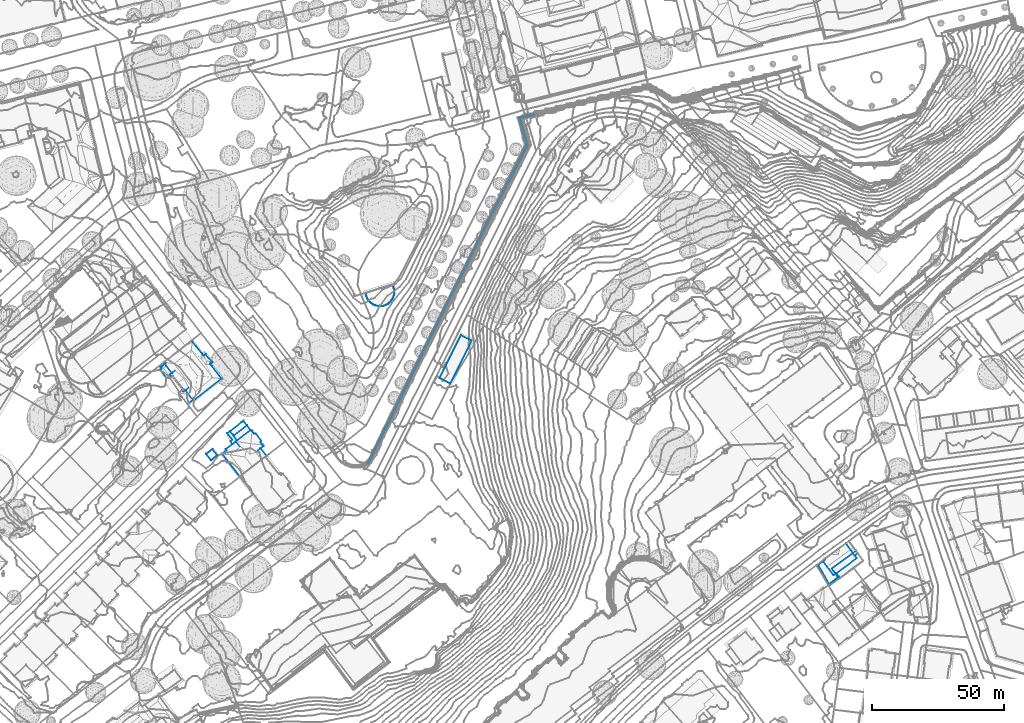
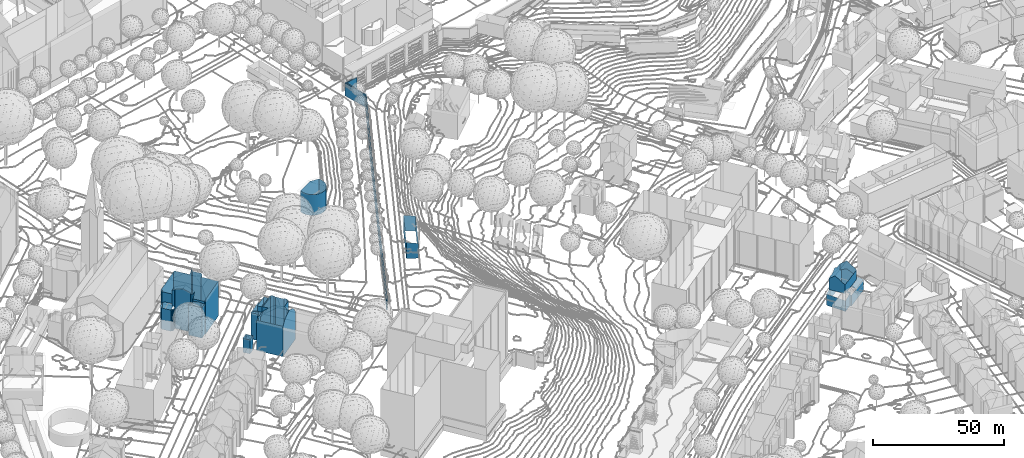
# Not in any storey, part 38 of 494: 7 walls.
"""IFC2X3 model written with IfcOpenShell, lengths in metres."""

import ifcopenshell
import ifcopenshell.guid

model = None  # the IFC model being written
_history = None  # IfcOwnerHistory: only IFC2X3 demands one
_inside = {}  # id of a spatial element -> (the spatial element, [elements in it])
_under = {}  # id of a project, library or spatial element -> (it, [spatial elements below it])
_declared = {}  # id of a project -> (the project, [libraries it declares])
_typed = {}  # id of a type object -> (the type object, [elements of that type])
_made_of = {}  # id of a material, layer set ... -> (it, [elements and type objects made of it])


def new_model(schema):
    """Start an empty IFC model of exactly this schema.

    Asked for "IFC4X3", IfcOpenShell would pick the latest addendum, in which some entities
    have other attributes; the version numbers below select the first issue.
    IFC2X3 requires an IfcOwnerHistory on every rooted entity: one is made here for all.
    """
    global model, _history
    if schema == "IFC4X3":
        model = ifcopenshell.file(schema_version=(4, 3, 0, 0))
    else:
        model = ifcopenshell.file(schema=schema)
    _inside.clear()
    _under.clear()
    _declared.clear()
    _typed.clear()
    _made_of.clear()
    _history = None
    if model.schema == "IFC2X3":
        org = make("IfcOrganization", Name="unknown")
        user = make(
            "IfcPersonAndOrganization",
            ThePerson=make("IfcPerson", FamilyName="unknown"),
            TheOrganization=org,
        )
        app = make(
            "IfcApplication",
            ApplicationDeveloper=org,
            Version="unknown",
            ApplicationFullName="unknown",
            ApplicationIdentifier="unknown",
        )
        _history = make(
            "IfcOwnerHistory",
            OwningUser=user,
            OwningApplication=app,
            ChangeAction="ADDED",
            CreationDate=0,
        )
    return model


def make(cls, **values):
    """One entity of the class cls with the attributes given. An attribute that is None is left unset."""
    return model.create_entity(
        cls, **{name: value for name, value in values.items() if value is not None}
    )


def rooted(cls, **values):
    """An entity with a GlobalId (a new one), such as an element, a storey or a relation."""
    return make(cls, GlobalId=ifcopenshell.guid.new(), OwnerHistory=_history, **values)


def si_unit(unit_type, name, prefix=None):
    """IfcSIUnit, for example si_unit("LENGTHUNIT", "METRE", prefix="MILLI")."""
    return make("IfcSIUnit", UnitType=unit_type, Prefix=prefix, Name=name)


def assignment(units):
    """IfcUnitAssignment: the units of a project."""
    return None if units is None else make("IfcUnitAssignment", Units=units)


def point(xyz):
    """IfcCartesianPoint."""
    return None if xyz is None else make("IfcCartesianPoint", Coordinates=xyz)


def direction(xyz):
    """IfcDirection."""
    return None if xyz is None else make("IfcDirection", DirectionRatios=xyz)


def frame(location, z_axis=None, x_axis=None):
    """IfcAxis2Placement3D, a coordinate frame: its origin and axes. An axis left out is left unset."""
    return make(
        "IfcAxis2Placement3D",
        Location=point(location),
        Axis=direction(z_axis),
        RefDirection=direction(x_axis),
    )


def origin_with_axes():
    """The frame at (0, 0, 0) with the z axis (0, 0, 1) and the x axis (1, 0, 0) written out."""
    return frame((0.0, 0.0, 0.0), z_axis=(0.0, 0.0, 1.0), x_axis=(1.0, 0.0, 0.0))


def place(relative_to, where):
    """IfcLocalPlacement: puts the frame where relative to a parent placement (None: the world)."""
    return make(
        "IfcLocalPlacement", PlacementRelTo=relative_to, RelativePlacement=where
    )


def context(
    kind, dimensions, precision=None, world=None, true_north=None, identifier=None
):
    """IfcGeometricRepresentationContext, for example the 3D "Model" context."""
    return make(
        "IfcGeometricRepresentationContext",
        ContextIdentifier=identifier,
        ContextType=kind,
        CoordinateSpaceDimension=dimensions,
        Precision=precision,
        WorldCoordinateSystem=world,
        TrueNorth=true_north,
    )


def subcontext(parent, identifier, kind, view, scale=None):
    """IfcGeometricRepresentationSubContext, for example "Body" below "Model"."""
    return make(
        "IfcGeometricRepresentationSubContext",
        ContextIdentifier=identifier,
        ContextType=kind,
        ParentContext=parent,
        TargetScale=scale,
        TargetView=view,
    )


def project(units=None, contexts=None):
    """IfcProject with its units and contexts."""
    return rooted(
        "IfcProject",
        Name="project",
        RepresentationContexts=contexts,
        UnitsInContext=assignment(units),
    )


def faces_of(points, faces, orient=None, outer=None):
    """IfcFace entities. A face is a list of loops; a loop is a list of indices into points, from 0.

    orient and outer hold one flag for each loop. By default every Orientation is true, the
    first loop of a face is its IfcFaceOuterBound and the others are IfcFaceBound.
    """
    made = []
    for i, loops in enumerate(faces):
        bounds = []
        for j, loop in enumerate(loops):
            is_outer = j == 0 if outer is None else outer[i][j]
            bounds.append(
                make(
                    "IfcFaceOuterBound" if is_outer else "IfcFaceBound",
                    Bound=make("IfcPolyLoop", Polygon=[points[k] for k in loop]),
                    Orientation=True if orient is None else orient[i][j],
                )
            )
        made.append(make("IfcFace", Bounds=bounds))
    return made


def faceted_brep(points, faces, orient=None, outer=None, voids=None):
    """IfcFacetedBrep: a solid bounded by flat faces; with voids (closed shells), ...WithVoids."""
    shared = [point(p) for p in points]
    hull = make("IfcClosedShell", CfsFaces=faces_of(shared, faces, orient, outer))
    if voids is None:
        return make("IfcFacetedBrep", Outer=hull)
    return make(
        "IfcFacetedBrepWithVoids",
        Outer=hull,
        Voids=[
            make(cls, CfsFaces=faces_of(shared, fs, o, b)) for cls, fs, o, b in voids
        ],
    )


def shape(context_of_items, identifier, shape_type, items):
    """IfcShapeRepresentation: the items that make up one representation, for example the "Body"."""
    return make(
        "IfcShapeRepresentation",
        ContextOfItems=context_of_items,
        RepresentationIdentifier=identifier,
        RepresentationType=shape_type,
        Items=items,
    )


def made_of(thing, what):
    """Note that an element or type object is made of a material, layer set ...; save() writes the relation."""
    if what is not None:
        _made_of.setdefault(what.id(), (what, []))[1].append(thing)
    return thing


def element(
    cls,
    number,
    at=None,
    inside=None,
    cuts=None,
    type_object=None,
    material=None,
    context=None,
    identifier="Body",
    shape_type=None,
    held_by="IfcProductDefinitionShape",
    body=None,
    shapes=None,
    **own,
):
    """One element of the class cls, such as IfcWall. Its Tag is "e" and its number.

    at: its placement. inside: the storey or other place that contains it. cuts: it is an
    opening in that element (IfcRelVoidsElement). A single representation is given by context,
    identifier, shape_type and body (its items); several are given by shapes. held_by: the class
    of the entity that holds the representations. save() writes the other relations.
    """
    e = rooted(cls, Tag="e%d" % number, ObjectPlacement=at, **own)
    if body is not None:
        shapes = [shape(context, identifier, shape_type, body)]
    if shapes is not None:
        e.Representation = make(held_by, Representations=shapes)
    if inside is not None:
        _inside.setdefault(inside.id(), (inside, []))[1].append(e)
    if cuts is not None:
        rooted(
            "IfcRelVoidsElement", RelatingBuildingElement=cuts, RelatedOpeningElement=e
        )
    if type_object is not None:
        _typed.setdefault(type_object.id(), (type_object, []))[1].append(e)
    return made_of(e, material)


def aggregate(whole, parts):
    """IfcRelAggregates: a whole, such as a stair, and the parts it consists of."""
    return rooted("IfcRelAggregates", RelatingObject=whole, RelatedObjects=parts)


def save(model, path):
    """Write the relations noted so far, then the file.

    IfcRelAggregates (storeys below a building ...), IfcRelContainedInSpatialStructure (elements
    in a storey), IfcRelDefinesByType, IfcRelAssociatesMaterial and IfcRelDeclares: one each for
    every whole, place, type object, material and project.
    """
    for whole, parts in _under.values():
        aggregate(whole, parts)
    for where, things in _inside.values():
        rooted(
            "IfcRelContainedInSpatialStructure",
            RelatedElements=things,
            RelatingStructure=where,
        )
    for kind, things in _typed.values():
        rooted("IfcRelDefinesByType", RelatedObjects=things, RelatingType=kind)
    for what, things in _made_of.values():
        rooted("IfcRelAssociatesMaterial", RelatedObjects=things, RelatingMaterial=what)
    for by, libraries in _declared.values():
        rooted("IfcRelDeclares", RelatingContext=by, RelatedDefinitions=libraries)
    model.write(path)


model = new_model("IFC2X3")

# Units and contexts
model_context = context("Model", 3, precision=1e-05, world=origin_with_axes())
body_context = subcontext(model_context, "Body", "Model", "MODEL_VIEW")
ifc_project = project(units=[si_unit("AREAUNIT", "SQUARE_METRE"), si_unit("LENGTHUNIT", "METRE")], contexts=[model_context])

# Walls
wall_1_placement = place(None, frame((211.8297320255, 101.9383160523, 526.7541), z_axis=(0.0, 0.0, 1.0), x_axis=(1.0, 0.0, 0.0)))
element("IfcWall", 1, at=wall_1_placement, Name="Wall 15", context=body_context, shape_type="Brep", body=[
    faceted_brep([(101.5769999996, 200.1640000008, 12.725), (98.7160000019, 210.6893999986, 6.9356), (101.5769999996, 200.1640000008, 6.9355), (99.1889999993, 194.3115000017, 12.725), (87.0150000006, 170.5927000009, 12.725), (99.1889999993, 194.3115000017, 6.9355), (102.1030000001, 200.1112999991, 12.725), (102.1030000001, 200.1112999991, 6.9355), (98.7479999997, 194.5351000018, 12.725), (98.7479999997, 194.5351000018, 6.9355), (86.574000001, 170.8154000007, 12.725), (86.574000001, 170.8154000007, 6.9355), (99.3280000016, 210.3222000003, 12.908), (99.3280000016, 210.3222000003, 6.9356), (104.5170000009, 211.5126999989, 12.908), (104.5170000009, 211.5126999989, 6.9356), (98.7160000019, 210.6893999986, 12.908), (104.3980000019, 211.9921999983, 12.908), (69.7410000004, 135.8436999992, 12.358), (60.0820000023, 116.4853000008, 12.266), (60.0820000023, 116.4853000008, 6.9355), (79.3300000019, 155.1757000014, 12.45), (74.5290000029, 145.4970000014, 11.0251), (74.5290000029, 145.4970000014, 8.2684), (79.3300000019, 155.1757999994, 6.9355), (69.7410000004, 135.8436999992, 6.9355), (64.4620000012, 126.371100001, 8.1764), (64.4620000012, 126.371100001, 10.9331), (69.2980000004, 136.0634000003, 6.9355), (69.2980000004, 136.0634000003, 12.358), (78.887000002, 155.3955000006, 12.45), (59.6380000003, 116.7041000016, 12.266), (59.6380000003, 116.7041000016, 6.9355), (87.0150000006, 170.5927000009, 6.9355), (78.887000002, 155.3955000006, 6.9355), (41.1750000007, 79.504900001, 11.991), (50.068, 97.128899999, 11.991), (41.1750000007, 79.504900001, 6.9354), (41.626000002, 79.3007999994, 11.991), (41.626000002, 79.3007999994, 6.9354), (50.5109999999, 96.9081999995, 11.991), (50.5109999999, 96.9081999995, 6.9355), (50.068, 97.128899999, 6.9355), (104.3980000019, 211.9921999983, 6.9356)], [[[0, 1, 2]], [[3, 4, 5]], [[6, 3, 7]], [[8, 0, 9]], [[10, 8, 11]], [[12, 6, 13]], [[14, 12, 15]], [[16, 17, 1]], [[18, 19, 20]], [[21, 18, 22]], [[21, 22, 23]], [[23, 24, 21]], [[24, 23, 25]], [[18, 25, 23]], [[25, 18, 20]], [[26, 27, 28]], [[28, 29, 30]], [[29, 27, 31]], [[31, 27, 26]], [[26, 32, 31]], [[32, 26, 28]], [[4, 21, 33]], [[30, 11, 34]], [[35, 36, 37]], [[38, 35, 39]], [[40, 38, 41]], [[19, 40, 20]], [[36, 32, 42]], [[43, 17, 15]], [[16, 1, 0]], [[4, 33, 5]], [[3, 5, 7]], [[0, 2, 9]], [[8, 9, 11]], [[6, 7, 13]], [[12, 13, 15]], [[17, 43, 1]], [[22, 18, 23]], [[27, 29, 28]], [[28, 30, 34]], [[21, 24, 33]], [[10, 11, 30]], [[36, 42, 37]], [[35, 37, 39]], [[38, 39, 41]], [[40, 41, 20]], [[31, 32, 36]], [[17, 14, 15]]]),
])
wall_2_placement = place(None, frame((191.7677320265, 184.7195160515, 533.4186), z_axis=(0.0, 0.0, 1.0), x_axis=(1.0, 0.0, 0.0)))
element("IfcWall", 2, at=wall_2_placement, Name="Wall 0", context=body_context, shape_type="Brep", body=[
    faceted_brep([(2.3889999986, 1.7871000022, 6.5494), (4.1750000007, -0.4784999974, 6.5384), (3.3530000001, 0.5645000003, 0.0), (4.1380000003, -0.5077999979, 6.5584), (1.8900000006, -2.2802000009, 6.5484), (4.1750000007, -0.4784999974, 0.0), (1.8319999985, -2.3260999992, 0.0), (0.9030000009, 0.6983000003, 0.0), (0.0, 0.0, 0.0), (0.0410000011, 0.0322999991, 6.5284), (0.0, 0.0001000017, 6.5054), (1.8319999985, -2.3260999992, 6.5164), (2.3599999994, 1.8243000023, 0.0), (2.3599999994, 1.8242000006, 6.5294), (1.6889999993, 1.3047000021, 6.5284)], [[[0, 1, 2]], [[1, 3, 4]], [[5, 1, 4]], [[6, 5, 4]], [[7, 8, 9]], [[9, 8, 10]], [[6, 11, 10]], [[10, 8, 6]], [[0, 2, 12]], [[1, 5, 2]], [[0, 12, 13]], [[7, 14, 12]], [[14, 7, 9]], [[13, 12, 14]], [[4, 11, 6]]]),
])
wall_3_placement = place(None, frame((197.8567320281, 184.744916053, 532.0838), z_axis=(0.0, 0.0, 1.0), x_axis=(1.0, 0.0, 0.0)))
element("IfcWall", 3, at=wall_3_placement, Name="Wall 0", context=body_context, shape_type="Brep", body=[
    faceted_brep([(3.8349999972, 5.3770000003, 0.0), (3.1030000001, 4.8066999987, 0.0), (3.8349999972, 5.3770000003, 12.2958), (3.9210000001, 3.7509999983, 12.0508), (3.9210000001, 3.7509999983, 0.0), (3.1030000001, 4.8066999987, 12.0508), (6.7390000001, 2.6748000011, 15.8304), (5.1609999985, 4.7109999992, 15.8304), (5.1609999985, 4.7109999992, 13.4287), (1.6789999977, 1.308600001, 14.0176), (1.3369999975, 1.7480999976, 0.0), (1.6789999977, 1.308600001, 0.0), (0.0, 0.0, 14.0236), (0.4199999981, 0.3271999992, 14.0216), (0.0, 0.0, 10.5179), (0.0, 0.0, 3.5056), (15.4179999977, 3.3418000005, 16.4074), (15.3550000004, 3.2919999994, 16.4054), (15.4179999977, 3.3418000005, 4.1016), (15.3550000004, 3.2919999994, -0.0001), (15.4179999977, 3.3418000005, -0.0001), (15.6419999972, 2.9239000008, 15.8304), (15.6419999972, 2.9237999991, -0.0001), (14.6119999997, 2.1259999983, 12.6237), (16.7899999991, -0.6845000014, 12.6237), (14.6119999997, 2.1259999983, -0.0001), (11.1039999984, 8.6220999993, 8.2312), (11.231999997, 8.7216999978, 16.4614), (11.1039999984, 8.6220999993, 4.1156), (11.231999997, 8.7216999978, 0.0), (11.1039999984, 8.6220999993, 0.0), (14.5339999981, 4.4776000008, 4.1286), (14.8389999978, 5.0214999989, 15.8304), (14.5339999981, 4.4776000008, 16.5134), (14.5339999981, 4.4776000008, -0.0001), (14.8389999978, 5.0214999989, -0.0001), (12.7159999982, 7.7626999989, 15.8304), (12.7159999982, 7.7626999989, 0.0), (12.1039999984, 7.6006000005, 0.0), (4.2889999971, 6.9043000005, 15.1485), (9.3729999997, 10.8456999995, 15.1485), (4.2889999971, 6.9043000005, 12.6367), (9.3729999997, 10.8456999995, 12.1278), (4.2889999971, 6.9043000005, 12.1278), (5.6769999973, 5.1142999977, 15.1485), (5.6769999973, 5.1142999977, 12.6367), (1.936999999, 7.816399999, 0.0), (1.936999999, 7.816399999, 12.1418), (2.7669999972, 6.75, 12.2948), (2.9629999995, 8.6162, 12.1738), (2.9629999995, 8.6162, 12.0948), (2.9629999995, 8.6162, 0.0), (7.4239999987, 12.0878999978, 12.1278), (8.0359999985, 12.5634999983, 12.1278), (7.4239999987, 12.0878999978, 0.0), (8.0359999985, 12.5634999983, 0.0), (4.0439999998, 7.2216999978, 12.1278), (4.0439999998, 7.2216999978, 12.6368), (14.6119999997, 2.1259999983, 15.8304), (12.6519999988, 0.6064999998, 15.8304), (15.3669999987, 3.4081999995, 16.5094), (11.2669999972, 8.6767999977, 16.5264), (12.1039999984, 7.6006000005, 16.5234), (9.3729999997, 10.8456999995, 0.0), (10.7659999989, 9.0566999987, 0.0), (10.7659999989, 9.0557000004, 15.8304), (11.1039999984, 8.6220999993, 16.4624), (10.7659999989, 9.0566999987, 15.1485), (11.1039999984, 8.6220999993, 12.3468), (0.6609999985, -0.8506000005, 14.1086), (0.0460000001, -0.0595000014, 14.1016), (6.6479999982, -8.5430000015, -0.0001), (6.6479999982, -8.5428999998, 14.1446), (6.3269999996, -8.1308000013, 14.1306), (5.875, -7.5498000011, 14.1256), (6.3489999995, -8.1592000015, -0.0001), (0.6609999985, -0.8506000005, 0.0), (0.0, 0.0, 0.0), (1.3369999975, 1.7480999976, 13.4287), (3.9210000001, 3.7509999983, 13.4287), (5.6769999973, 5.1142999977, 15.8304), (8.2919999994, -7.2695000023, 16.2364), (14.8299999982, -2.2030999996, 15.8304), (11.4399999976, -4.8300999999, 17.6982), (11.4399999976, -4.8300999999, -0.0001), (8.2919999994, -7.2695000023, -0.0001), (14.8299999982, -2.2030999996, -0.0001), (16.7899999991, -0.6845000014, -0.0001)], [[[0, 1, 2]], [[3, 1, 4]], [[1, 3, 5]], [[6, 7, 8]], [[9, 10, 11]], [[12, 13, 14]], [[14, 13, 15]], [[9, 11, 13]], [[16, 17, 18]], [[17, 19, 20]], [[17, 21, 19]], [[22, 19, 21]], [[23, 24, 25]], [[26, 27, 28]], [[27, 29, 30]], [[31, 32, 33]], [[31, 34, 32]], [[32, 34, 35]], [[36, 32, 37]], [[37, 32, 35]], [[37, 38, 36]], [[39, 40, 41]], [[41, 42, 43]], [[44, 41, 45]], [[46, 0, 2]], [[46, 2, 47]], [[2, 48, 47]], [[47, 49, 50]], [[46, 50, 51]], [[50, 46, 47]], [[52, 53, 54]], [[51, 50, 54]], [[55, 54, 53]], [[54, 50, 52]], [[56, 50, 57]], [[57, 50, 49]], [[41, 43, 56]], [[41, 56, 57]], [[21, 23, 22]], [[58, 59, 23]], [[22, 23, 25]], [[33, 60, 16]], [[18, 31, 33]], [[31, 18, 20]], [[18, 33, 16]], [[20, 34, 31]], [[29, 27, 38]], [[27, 61, 62]], [[38, 27, 62]], [[28, 55, 26]], [[26, 55, 53]], [[55, 28, 63]], [[28, 64, 63]], [[64, 28, 30]], [[65, 66, 67]], [[26, 42, 68]], [[42, 26, 53]], [[68, 67, 66]], [[67, 68, 42]], [[42, 40, 67]], [[69, 70, 12]], [[69, 12, 14]], [[71, 72, 73]], [[73, 74, 71]], [[69, 71, 74]], [[69, 14, 71]], [[75, 14, 15]], [[76, 15, 77]], [[14, 75, 71]], [[15, 76, 75]], [[78, 79, 3]], [[3, 79, 8]], [[78, 3, 10]], [[4, 10, 3]], [[7, 80, 44]], [[67, 44, 65]], [[7, 44, 8]], [[3, 8, 45]], [[81, 72, 82]], [[83, 81, 82]], [[82, 72, 24]], [[72, 84, 24]], [[71, 85, 72]], [[86, 87, 24]], [[86, 24, 84]], [[84, 72, 85]], [[2, 1, 5]], [[78, 10, 9]], [[77, 13, 11]], [[13, 77, 15]], [[17, 20, 18]], [[24, 87, 25]], [[66, 27, 68]], [[26, 68, 27]], [[27, 30, 28]], [[36, 38, 62]], [[40, 42, 41]], [[39, 41, 44]], [[58, 23, 21]], [[44, 80, 65]], [[44, 45, 8]]]),
])
wall_4_placement = place(None, frame((424.3367320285, 142.6277160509, 499.4686), z_axis=(0.0, 0.0, 1.0), x_axis=(1.0, 0.0, 0.0)))
element("IfcWall", 4, at=wall_4_placement, Name="Wall 0", context=body_context, shape_type="Brep", body=[
    faceted_brep([(15.050999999, 4.3672000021, 7.6103), (13.8949999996, 3.5215000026, 5.7004), (15.050999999, 4.3672000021, 5.7004), (1.8809999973, 1.3858000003, 0.9629), (2.6589999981, 1.9590000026, 10.913), (2.6589999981, 1.9590000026, 0.006), (1.8729999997, 1.379900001, 0.006), (1.8729999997, 1.379900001, 10.915), (1.8729999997, 1.379900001, 5.7335), (14.675999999, 2.452200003, 9.824), (6.9169999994, -3.2236000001, 6.0304), (14.675999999, 2.452200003, 5.4765), (5.8249999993, -4.0233999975, 9.824), (6.9169999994, -3.2236000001, 5.4765), (5.8249999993, -4.0233999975, 5.7334), (3.3819999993, -0.682599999, 12.8868), (2.4809999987, 2.2012000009, 10.68), (2.4809999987, 2.2012000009, 5.9474), (2.4809999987, 2.2012000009, 0.006), (10.5249999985, 8.1280000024, 7.7623), (10.5249999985, 8.1280000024, 10.632), (12.2349999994, 5.7920000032, 9.1091), (12.2349999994, 5.7920000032, 12.8868), (13.8949999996, 3.5215000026, 7.6103), (7.5859999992, -4.740199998, 0.0), (7.9599999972, -5.2518999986, 5.0955), (7.5849999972, -4.740199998, 5.2025), (7.9599999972, -5.2518999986, -0.042), (6.629999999, -3.4335999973, 0.006), (5.186999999, -1.4618999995, 0.0), (5.186999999, -1.4618999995, -0.042), (17.1279999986, 1.5527999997, -0.042), (17.1279999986, 1.5527999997, 5.1095), (12.754999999, -1.6932999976, -0.042), (12.5439999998, -1.8495999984, 5.1025), (1.7299999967, -3.0946999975, 0.0), (3.4469999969, -6.1659999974, 5.0345), (2.0269999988, -3.6268999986, 5.1115), (3.4469999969, -6.1659999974, 0.0), (0.0, 0.0, 5.2225), (0.0, 0.0, 1.0449), (0.0, 0.0, 0.0), (4.1419999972, -7.3172999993, 5.0085), (4.1419999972, -7.3172999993, 0.0), (7.868999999, -4.5262999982, 6.0304), (7.5029999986, -4.8016999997, 5.9294), (7.868999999, -4.5262999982, 5.2045), (11.8349999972, 8.7226999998, 7.8742), (13.379999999, 6.630900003, 9.1091), (11.6579999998, 8.9629000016, 0.064), (11.6579999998, 8.9629000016, 7.7353), (15.0569999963, 4.3594000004, 3.8286), (13.379999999, 6.630900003, 0.064), (14.3859999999, 5.2675999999, 0.064), (12.2349999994, 5.7920000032, 0.006), (10.5249999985, 8.1280000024, 0.006), (13.2349999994, 4.4258000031, 0.064), (10.5249999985, 8.1280000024, 0.064), (13.2339999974, 4.4248000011, 0.006), (4.9789999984, 4.0420000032, 10.672), (6.5159999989, 5.1739000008, 0.006), (8.3029999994, 6.4912, 10.662), (4.9789999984, 4.0420000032, 0.006), (6.5159999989, 5.1739000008, 11.9689), (9.0339999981, 7.0303000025, 10.659), (8.3029999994, 6.4912, 0.006), (9.0339999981, 7.0303000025, 0.006), (14.3859999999, 5.2675999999, -0.042), (5.4739999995, -1.2518999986, 0.0), (0.4679999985, 0.3448000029, 1.0499), (1.4049999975, 1.0351999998, 1.3059), (0.4679999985, 0.3448000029, 0.002), (0.935999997, 0.6905000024, 0.003), (1.4049999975, 1.0351999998, 0.005)], [[[0, 1, 2]], [[3, 4, 5]], [[6, 3, 5]], [[7, 4, 8]], [[9, 10, 11]], [[10, 9, 12]], [[11, 10, 13]], [[14, 10, 12]], [[12, 15, 14]], [[14, 7, 8]], [[7, 14, 15]], [[16, 17, 4]], [[4, 17, 5]], [[18, 5, 17]], [[19, 20, 21]], [[20, 22, 21]], [[9, 23, 21]], [[11, 23, 9]], [[23, 11, 1]], [[9, 21, 22]], [[24, 25, 26]], [[27, 25, 24]], [[28, 29, 30]], [[30, 27, 28]], [[28, 27, 24]], [[31, 32, 33]], [[32, 34, 33]], [[34, 25, 33]], [[33, 25, 27]], [[35, 36, 37]], [[38, 36, 35]], [[39, 40, 37]], [[35, 37, 40]], [[41, 35, 40]], [[42, 36, 43]], [[36, 38, 43]], [[44, 45, 46]], [[26, 46, 45]], [[45, 42, 26]], [[42, 43, 24]], [[24, 26, 42]], [[47, 48, 2]], [[0, 2, 48]], [[2, 49, 47]], [[49, 50, 47]], [[49, 51, 52]], [[51, 53, 52]], [[51, 49, 2]], [[54, 55, 56]], [[56, 55, 57]], [[56, 58, 54]], [[17, 16, 59]], [[60, 17, 19]], [[59, 61, 17]], [[62, 18, 17]], [[17, 60, 62]], [[59, 63, 61]], [[61, 64, 19]], [[19, 50, 57]], [[20, 19, 64]], [[19, 65, 60]], [[65, 19, 66]], [[49, 57, 50]], [[57, 55, 66]], [[19, 57, 66]], [[19, 17, 61]], [[32, 51, 2]], [[31, 53, 51]], [[67, 53, 31]], [[29, 68, 30]], [[30, 68, 58]], [[56, 53, 58]], [[58, 67, 30]], [[67, 58, 53]], [[40, 39, 8]], [[69, 8, 70]], [[40, 71, 41]], [[69, 72, 71]], [[69, 70, 72]], [[72, 70, 73]], [[3, 73, 70]], [[6, 73, 3]], [[8, 3, 70]], [[10, 44, 13]], [[23, 1, 0]], [[8, 4, 3]], [[32, 31, 51]], [[40, 8, 69]], [[69, 71, 40]], [[44, 46, 13]]]),
])
wall_5_placement = place(None, frame((280.3717320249, 213.5818160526, 528.5311), z_axis=(0.0, 0.0, 1.0), x_axis=(1.0, 0.0, 0.0)))
element("IfcWall", 5, at=wall_5_placement, Name="Wall 0", context=body_context, shape_type="Brep", body=[
    faceted_brep([(8.1610000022, 16.254900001, 0.0), (8.1610000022, 16.254900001, 7.4403), (12.2990000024, 14.1807000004, 6.8683), (12.2990000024, 14.1807000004, 0.0), (0.0, 0.0, 0.0), (4.1460000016, -2.0859000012, 6.8803), (4.1460000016, -2.0859000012, -0.0001), (0.0, 0.0, 7.4532)], [[[0, 1, 2]], [[2, 3, 0]], [[4, 1, 0]], [[5, 4, 6]], [[3, 2, 5]], [[6, 3, 5]], [[4, 7, 1]], [[7, 4, 5]]]),
])
wall_6_placement = place(None, frame((252.4497320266, 245.9139160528, 540.482), z_axis=(0.0, 0.0, 1.0), x_axis=(1.0, 0.0, 0.0)))
element("IfcWall", 6, at=wall_6_placement, Name="Wall 0", context=body_context, shape_type="Brep", body=[
    faceted_brep([(0.0, 0.0, 9.856), (5.0029999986, 1.620099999, 11.3829), (4.9250000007, 1.5947000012, 0.0), (0.0, 0.0, 0.0), (0.0529999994, -0.5029999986, 9.831), (0.0529999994, -0.5029999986, 0.0), (0.1350000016, -0.9072999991, 9.821), (0.1530000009, -0.9970999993, 0.0), (1.0, -2.8262000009, 9.739), (1.0, -2.8262000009, 0.0), (1.2250000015, -3.1132999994, 9.751), (0.1539999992, -0.9981000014, 9.811), (0.3000000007, -1.4844000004, 0.0), (0.3000000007, -1.4844000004, 9.772), (0.4910000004, -1.9521999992, 9.747), (0.4910000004, -1.9521999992, 0.0), (0.7250000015, -2.4013999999, 0.0), (0.7250000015, -2.4013999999, 9.736), (10.1680000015, 2.808600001, 9.846), (10.2850000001, 2.558600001, 0.0), (10.1680000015, 2.808600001, 0.0), (9.932, 3.2168000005, 0.0), (10.1710000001, -2.1768000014, 0.0), (10.1719999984, -2.1748000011, 9.696), (10.1140000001, -2.2754000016, 9.702), (9.936999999, -2.5830000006, 9.674), (10.370000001, -1.7481000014, 9.683), (10.370000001, -1.7481000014, 0.0), (10.5309999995, -1.3047000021, 9.683), (10.5309999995, -1.3047000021, 0.0), (10.6519999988, -0.8506000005, 9.694), (10.6519999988, -0.8506000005, 0.0), (10.7340000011, -0.3867999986, 9.718), (10.7340000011, -0.3867000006, 0.0), (10.7740000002, 0.0819999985, 0.0), (10.6499999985, 1.4853000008, 9.759), (10.7320000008, 1.0214999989, 0.0), (10.6499999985, 1.4853000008, 0.0), (10.5280000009, 1.9393999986, 0.0), (10.5280000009, 1.9393999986, 9.78), (10.3669999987, 2.3827999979, 9.814), (10.3669999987, 2.3827999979, 0.0), (10.2800000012, 2.5683000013, 9.834), (10.7740000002, 0.1766999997, 9.763), (10.7740000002, 0.552699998, 0.0), (10.7320000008, 1.0214999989, 9.749), (10.7740000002, 0.552699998, 9.751), (5.5760000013, -5.0791000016, 0.0), (6.057, -5.0410000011, 0.0), (6.057, -5.0410000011, 9.648), (5.8539999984, -5.057599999, 9.663), (6.5329999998, -4.9600000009, 0.0), (6.5329999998, -4.9600000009, 9.625), (7.0, -4.8368999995, 0.0), (7.0, -4.8368999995, 9.614), (7.4539999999, -4.6728999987, 0.0), (7.4539999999, -4.6728999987, 9.617), (7.879999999, -4.4737000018, 0.0), (7.879999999, -4.4737000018, 9.632), (8.2910000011, -4.2353999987, 0.0), (8.6730000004, -3.9668000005, 9.645), (8.3469999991, -4.1963, 9.665), (8.6730000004, -3.9668000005, 0.0), (9.0329999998, -3.6631000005, 9.635), (9.0329999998, -3.6631000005, 0.0), (9.3649999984, -3.3300999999, 0.0), (9.6680000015, -2.9688000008, 0.0), (9.6680000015, -2.9688000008, 9.649), (9.3649999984, -3.3300999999, 9.636), (9.936999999, -2.5830000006, 0.0), (1.6290000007, -3.557599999, 9.704), (1.2980000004, -3.2061000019, 0.0), (1.6290000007, -3.557599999, 0.0), (1.9899999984, -3.8770000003, 0.0), (1.9899999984, -3.8770000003, 9.682), (2.3790000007, -4.1640999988, 9.672), (2.3790000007, -4.1640999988, 0.0), (2.7910000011, -4.4151000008, 0.0), (3.2219999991, -4.6279999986, 0.0), (3.2690000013, -4.6464999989, 9.693), (3.2239999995, -4.628899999, 9.69), (4.1389999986, -4.9356000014, 0.0), (4.1389999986, -4.9356000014, 9.639), (3.6750000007, -4.8018000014, 0.0), (4.6130000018, -5.0263999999, 0.0), (4.6130000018, -5.0263999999, 9.628), (5.0929999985, -5.0742999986, 0.0), (5.5760000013, -5.0791000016, 9.647), (3.4409999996, -4.7118999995, 9.68), (3.6750000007, -4.8018000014, 9.662), (9.932, 3.2168000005, 9.879), (10.7740000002, 0.0819999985, 9.754), (8.2879999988, -4.2373000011, 9.659), (1.2980000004, -3.2061000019, 9.739), (2.7910000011, -4.4151000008, 9.675), (5.0929999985, -5.0742999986, 9.631)], [[[0, 1, 2]], [[2, 3, 0]], [[4, 0, 5]], [[5, 0, 3]], [[6, 5, 7]], [[8, 9, 10]], [[6, 7, 11]], [[12, 11, 7]], [[12, 13, 11]], [[14, 13, 12]], [[14, 12, 15]], [[16, 17, 15]], [[15, 17, 14]], [[8, 16, 9]], [[17, 16, 8]], [[18, 19, 20]], [[2, 1, 21]], [[22, 23, 24]], [[25, 22, 24]], [[26, 22, 27]], [[28, 27, 29]], [[30, 28, 31]], [[28, 29, 31]], [[32, 31, 33]], [[32, 30, 31]], [[34, 32, 33]], [[35, 36, 37]], [[38, 39, 37]], [[35, 37, 39]], [[40, 39, 41]], [[39, 38, 41]], [[42, 40, 19]], [[19, 18, 42]], [[40, 41, 19]], [[43, 34, 44]], [[36, 45, 46]], [[47, 48, 49]], [[49, 50, 47]], [[51, 52, 48]], [[49, 48, 52]], [[53, 54, 51]], [[55, 56, 53]], [[54, 53, 56]], [[57, 58, 56]], [[59, 58, 57]], [[59, 60, 61]], [[62, 60, 59]], [[63, 62, 64]], [[64, 65, 63]], [[66, 67, 68]], [[66, 68, 65]], [[67, 66, 25]], [[25, 66, 69]], [[70, 71, 72]], [[73, 74, 72]], [[72, 74, 70]], [[75, 74, 76]], [[76, 74, 73]], [[75, 76, 77]], [[78, 79, 80]], [[71, 10, 9]], [[81, 82, 83]], [[84, 85, 82]], [[85, 84, 86]], [[47, 87, 86]], [[88, 78, 89]], [[88, 79, 78]], [[4, 5, 6]], [[18, 20, 21]], [[90, 18, 21]], [[90, 21, 1]], [[91, 34, 43]], [[23, 22, 26]], [[28, 26, 27]], [[34, 91, 32]], [[45, 36, 35]], [[46, 43, 44]], [[46, 44, 36]], [[51, 54, 52]], [[56, 55, 57]], [[59, 92, 58]], [[92, 59, 61]], [[60, 62, 63]], [[65, 68, 63]], [[25, 69, 22]], [[93, 71, 70]], [[77, 94, 75]], [[94, 78, 80]], [[94, 77, 78]], [[71, 93, 10]], [[89, 83, 82]], [[82, 81, 84]], [[85, 86, 95]], [[95, 86, 87]], [[50, 87, 47]], [[83, 89, 78]]]),
])
wall_7_placement = place(None, frame((174.360732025, 216.5486160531, 540.845), z_axis=(0.0, 0.0, 1.0), x_axis=(1.0, 0.0, 0.0)))
element("IfcWall", 7, at=wall_7_placement, Name="Wall 0", context=body_context, shape_type="Brep", body=[
    faceted_brep([(8.2800000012, -10.2607000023, 4.3085), (8.2160000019, -10.1787, -9.8481), (10.3590000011, -12.9081999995, 4.3085), (6.9850000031, -8.6123000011, 4.3085), (6.9850000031, -8.6123000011, -6.3094), (6.9850000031, -8.6123000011, -0.9999), (6.9850000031, -8.6123000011, -9.8481), (4.7440000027, -2.1533000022, -9.8481), (4.7440000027, -2.1533000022, 0.3849), (4.2750000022, -2.5205000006, 8.3442), (4.2750000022, -2.5205000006, 3.7956), (4.2750000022, -2.5205000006, 0.3429), (1.6060000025, 3.2382999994, -9.8481), (1.6060000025, 3.2382999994, 5.9524), (11.881000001, 11.2665999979, 6.0054), (11.881000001, 11.2665999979, -5.7675), (11.881000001, 11.2665999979, 2.0418), (5.9730000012, 6.6503999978, -9.8481), (11.881000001, 11.2665999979, -9.8481), (1.7290000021, 3.0810999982, 6.2454), (1.7290000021, 3.0810999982, -9.8481), (8.7660000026, -8.2343000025, 7.9792), (8.2710000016, -7.6024999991, 4.2766), (8.7660000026, -8.2343000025, 4.2766), (10.6860000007, -6.7246000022, 7.9792), (9.5260000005, -7.6367000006, 7.9792), (9.5260000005, -7.6367000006, 5.5344), (9.5260000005, -7.6367000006, 4.2766), (8.7310000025, -7.2421000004, -9.8481), (8.7310000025, -7.2421000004, 8.2632), (6.7300000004, -4.6875, -9.8481), (6.7300000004, -4.6875, 9.4151), (4.7440000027, -2.1533000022, 8.3442), (7.1400000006, -8.4902000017, 4.2766), (8.2700000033, -7.6024999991, 8.2642), (1.6500000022, 3.0196000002, 6.1844), (1.6790000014, 3.0419999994, 6.2454), (1.6500000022, 3.0196000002, -9.8481), (1.9830000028, 2.5927999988, -9.8481), (1.9830000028, 2.5927999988, 6.1804), (1.6760000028, 2.3535999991, 0.3659), (1.6760000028, 2.3535999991, 5.5335), (1.6740000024, 2.3506000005, -9.8481), (12.8380000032, -11.371100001, -9.8481), (12.8380000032, -11.371100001, 6.0244), (12.6359999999, -11.1141999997, -9.8481), (12.6359999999, -11.1141999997, 6.0244), (12.4040000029, -11.2968000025, 4.3405), (10.5200000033, -12.7811999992, 4.3405), (12.4040000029, -11.2968000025, 5.5344), (10.3590000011, -12.9081999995, -2.7698), (12.4040000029, -11.2968000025, -9.8481), (10.3590000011, -12.9081999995, -9.8481), (17.1560000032, 6.1318999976, 7.3453), (19.4770000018, 3.1708999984, 7.3593), (19.5980000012, 3.0165999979, 6.6673), (19.5980000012, 3.0165999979, -9.8481), (19.4770000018, 3.1708999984, -9.8481), (17.1560000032, 6.1318999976, -9.8481), (19.2280000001, 2.7256000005, 6.3644), (18.8450000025, 2.4239000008, 6.3644), (18.8450000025, 2.4239000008, -9.8481), (19.2280000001, 2.7256000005, -9.8481), (16.7370000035, 5.8017999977, 9.1601), (16.3890000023, 5.5293000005, 8.8751), (16.7370000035, 5.8017999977, -9.8481), (16.3890000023, 5.5293000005, -9.8481), (13.006000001, -11.2382000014, -9.8481), (23.2480000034, -3.1678999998, -9.8481), (23.2480000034, -3.1678999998, 6.3323), (23.2100000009, -3.1982000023, 6.4063), (13.006000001, -11.2382000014, 6.3803), (18.9020000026, 2.3506000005, 6.1804), (18.9020000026, 2.3506000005, -9.8481), (19.5820000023, 1.4882999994, -9.8481), (19.5820000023, 1.4882999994, 6.3394), (10.7820000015, -9.2343000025, 4.7105), (12.0300000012, 11.0781999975, -9.8481), (15.824000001, 6.2480999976, -9.8481), (16.0290000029, 5.9873000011, -9.8481), (15.8510000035, 6.2138999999, 6.1964), (15.2719999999, 6.9512000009, 6.3624), (12.0300000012, 11.0781999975, 6.3594), (16.0290000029, 5.9873000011, 6.7763), (0.6460000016, 1.5469000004, 0.3639), (0.6450000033, 1.5469000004, -9.8481), (0.1230000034, 0.4433999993, -9.8481), (0.1230000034, 0.4433999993, 0.149), (0.1090000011, 0.7226999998, 0.158), (0.2130000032, 0.1767999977, -9.8481), (0.2130000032, 0.1767999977, 0.211), (0.0, 9.9998e-05, -9.8481), (0.0, 0.0, 0.0), (0.1280000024, 0.1064999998, 0.126), (0.3000000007, 1.2421999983, -9.8481), (0.3000000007, 1.2421999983, 0.23), (0.4910000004, 1.4443999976, -9.8481), (2.5940000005, -2.8584000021, 0.243), (2.376000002, -3.0293000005, 0.027), (2.5940000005, -2.8584000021, -9.8481), (3.5580000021, -3.0126999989, 0.2849), (3.382000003, -3.0566000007, 0.2579), (3.5580000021, -3.0126999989, -9.8481), (3.382000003, -3.0566000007, -9.8481), (3.1090000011, -3.0634000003, 0.2529), (2.8370000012, -2.996100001, 0.2839), (2.8370000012, -2.996100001, -9.8481), (4.2750000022, -2.5205000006, -5.3005), (3.8670000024, -2.8408000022, 0.3439), (3.8570000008, -2.8486000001, -9.8481), (3.8000000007, -2.8925000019, 0.3419), (3.8000000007, -2.8925000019, -9.8481), (3.7390000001, -2.9228000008, 0.3539), (0.4910000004, 1.4443999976, 0.3289), (0.5320000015, 1.4706999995, 0.3549), (2.376000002, -3.0293000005, -9.8481), (0.0370000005, -0.0468000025, 0.029), (0.1690000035, 0.9970999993, 0.198), (0.1500000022, 0.9091999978, 0.211), (0.1690000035, 0.9970999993, -9.8481), (0.1090000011, 0.7226999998, -9.8481), (2.7800000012, -2.9638000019, 0.3059), (3.1090000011, -3.0634000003, -9.8481), (3.2140000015, -3.0604999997, 0.2669), (3.5970000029, -1.6581999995, 7.9792), (3.7920000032, -1.9043000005, 1.0649), (3.5970000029, -1.6581999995, 1.0649), (4.3570000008, -1.058600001, 5.5344), (4.3570000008, -1.058600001, 7.9792), (5.5170000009, -0.1493999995, 7.9792), (4.3570000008, -1.058600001, 1.0649), (2.2170000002, 1.6660999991, 5.5344), (2.2170000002, 1.6660999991, 1.0649), (10.7820000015, -9.2343000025, 5.5344)], [[[0, 1, 2]], [[0, 3, 1]], [[4, 1, 5]], [[6, 1, 4]], [[7, 8, 9]], [[10, 7, 9]], [[11, 7, 10]], [[12, 13, 14]], [[15, 12, 16]], [[15, 17, 12]], [[18, 17, 15]], [[19, 13, 20]], [[13, 12, 20]], [[21, 22, 23]], [[24, 25, 26]], [[26, 25, 21]], [[26, 23, 27]], [[23, 26, 21]], [[28, 29, 30]], [[8, 7, 30]], [[30, 29, 8]], [[31, 32, 8]], [[8, 29, 31]], [[3, 33, 5]], [[28, 4, 5]], [[33, 22, 5]], [[34, 29, 22]], [[22, 29, 28]], [[28, 5, 22]], [[6, 4, 28]], [[35, 36, 19]], [[19, 20, 35]], [[35, 20, 37]], [[37, 38, 39]], [[37, 39, 35]], [[40, 41, 39]], [[40, 39, 42]], [[39, 38, 42]], [[43, 44, 45]], [[46, 45, 44]], [[47, 48, 2]], [[46, 49, 47]], [[46, 47, 45]], [[47, 50, 45]], [[50, 51, 45]], [[51, 50, 52]], [[50, 47, 2]], [[53, 54, 55]], [[53, 55, 56]], [[53, 57, 58]], [[57, 53, 56]], [[59, 60, 61]], [[55, 59, 56]], [[62, 56, 59]], [[61, 62, 59]], [[63, 53, 64]], [[64, 53, 58]], [[64, 65, 66]], [[65, 64, 58]], [[67, 68, 69]], [[69, 43, 67]], [[69, 70, 44]], [[71, 44, 70]], [[69, 44, 43]], [[60, 72, 61]], [[73, 61, 72]], [[72, 74, 73]], [[75, 69, 74]], [[68, 74, 69]], [[75, 74, 72]], [[49, 76, 47]], [[27, 76, 26]], [[18, 15, 77]], [[77, 15, 78]], [[79, 78, 80]], [[79, 80, 66]], [[15, 80, 78]], [[81, 15, 16]], [[14, 82, 16]], [[81, 16, 82]], [[81, 80, 15]], [[83, 64, 66]], [[80, 83, 66]], [[84, 42, 85]], [[40, 42, 84]], [[86, 87, 88]], [[89, 90, 87]], [[87, 86, 89]], [[91, 92, 93]], [[90, 89, 93]], [[93, 89, 91]], [[94, 95, 96]], [[97, 98, 99]], [[100, 101, 102]], [[102, 101, 103]], [[104, 105, 106]], [[107, 11, 108]], [[7, 107, 109]], [[108, 110, 111]], [[111, 109, 108]], [[108, 109, 107]], [[102, 111, 100]], [[110, 112, 100]], [[110, 100, 111]], [[85, 96, 84]], [[84, 113, 114]], [[84, 96, 113]], [[115, 98, 92]], [[116, 92, 98]], [[91, 115, 92]], [[117, 88, 118]], [[119, 120, 117]], [[117, 120, 88]], [[105, 121, 97]], [[99, 105, 97]], [[99, 106, 105]], [[101, 122, 103]], [[104, 101, 123]], [[122, 101, 104]], [[10, 9, 124]], [[11, 10, 125]], [[125, 124, 126]], [[124, 125, 10]], [[126, 124, 127]], [[127, 124, 128]], [[129, 127, 128]], [[127, 130, 126]], [[127, 131, 130]], [[40, 132, 41]], [[50, 2, 1]], [[1, 52, 50]], [[3, 5, 1]], [[32, 9, 8]], [[11, 107, 7]], [[12, 14, 16]], [[34, 22, 21]], [[133, 76, 49]], [[76, 133, 26]], [[86, 88, 120]], [[95, 113, 96]], [[95, 119, 117]], [[95, 94, 119]], [[98, 115, 99]], [[104, 106, 122]], [[131, 132, 130]], [[132, 131, 41]]]),
])

save(model, "model.ifc")
